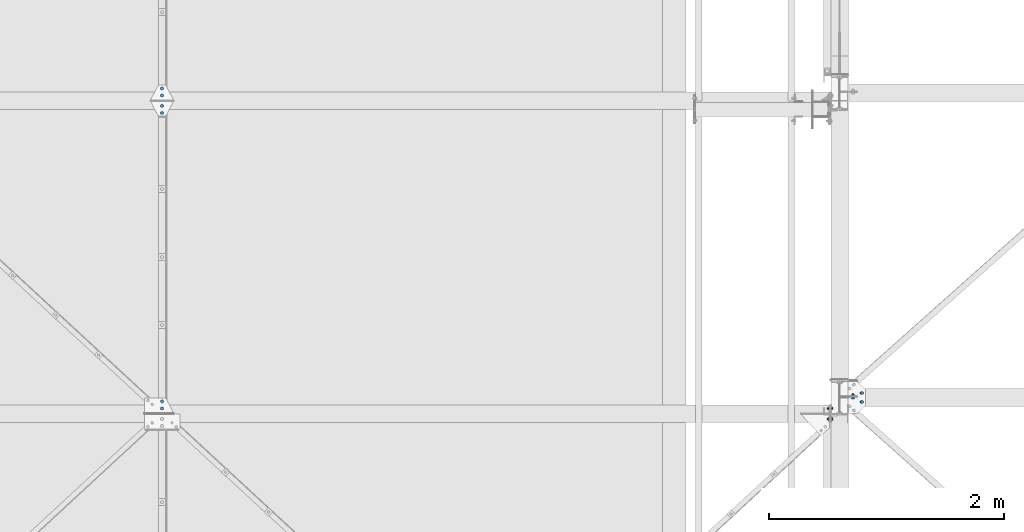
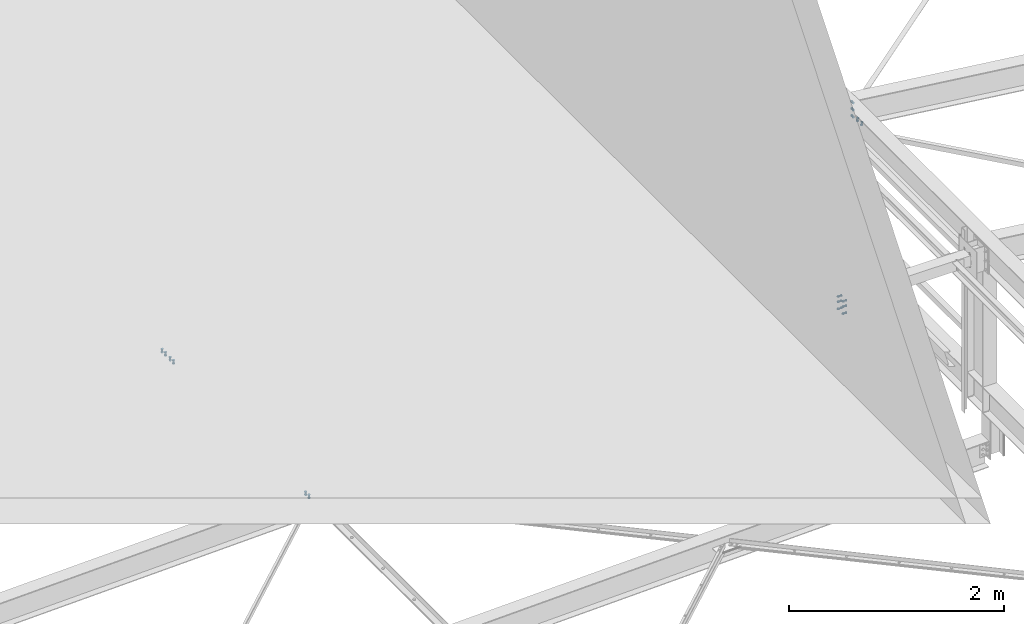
# One storey, part 197 of 3134: 6 mechanical fasteners, 3 elements without a shape of their own.
"""IFC2X3 building model written with IfcOpenShell, lengths in millimetres."""

from ifc_helpers import new_model, si_unit, frame, origin_with_axes, place, context, subcontext, project, spatial, faceted_brep, source, transform, mapped, material, type_object, element, aggregate, save


model = new_model("IFC2X3")

# Units and contexts
model_context = context("Model", 3, precision=1e-05, world=origin_with_axes())
body_context = subcontext(model_context, "Body", "Model", "MODEL_VIEW")
ifc_project = project(units=[si_unit("LENGTHUNIT", "METRE", prefix="MILLI"), si_unit("AREAUNIT", "SQUARE_METRE"), si_unit("VOLUMEUNIT", "CUBIC_METRE"), si_unit("MASSUNIT", "GRAM", prefix="KILO"), si_unit("TIMEUNIT", "SECOND"), si_unit("PLANEANGLEUNIT", "RADIAN"), si_unit("SOLIDANGLEUNIT", "STERADIAN"), si_unit("THERMODYNAMICTEMPERATUREUNIT", "DEGREE_CELSIUS"), si_unit("LUMINOUSINTENSITYUNIT", "LUMEN")], contexts=[model_context])

# Site, building, storey
site_placement = place(None, origin_with_axes())
site = spatial("IfcSite", under=ifc_project, at=site_placement, CompositionType="ELEMENT")
building_placement = place(site_placement, origin_with_axes())
building = spatial("IfcBuilding", under=site, at=building_placement, Name="Undefined", CompositionType="ELEMENT")
storey_placement = place(building_placement, origin_with_axes())
storey = spatial("IfcBuildingStorey", under=building, at=storey_placement, Name="Undefined", CompositionType="ELEMENT", Elevation=0.0)

# Assembly, mechanical fasteners
assembly_1_placement = place(storey_placement, origin_with_axes())
assembly_1 = element("IfcElementAssembly", 1, at=assembly_1_placement, inside=storey, Name="300", AssemblyPlace="NOTDEFINED", PredefinedType="RIGID_FRAME")
ifc_material = material(Name="8.8")
mechanical_fastener_type = type_object("IfcMechanicalFastenerType", Name="Bolt assembly")
shared_shape_1 = source(origin_with_axes(), body_context, "Body", "Brep", [
    faceted_brep([(13.856406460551, -19.199990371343, 0.0), (6.92820323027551, -19.199990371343, 12.0), (-6.92820323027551, -19.199990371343, 12.0), (-13.856406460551, -19.199990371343, 1.69692038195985e-15), (-6.92820323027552, -19.199990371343, -12.0), (6.9282032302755, -19.199990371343, -12.0), (6.9282032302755, -9.19999037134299, -12.0), (-6.92820323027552, -9.19999037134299, -12.0), (-13.856406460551, -9.19999037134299, 1.69692038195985e-15), (-6.92820323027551, -9.19999037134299, 12.0), (6.92820323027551, -9.19999037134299, 12.0), (13.856406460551, -9.19999037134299, 0.0), (8.0, -9.19999037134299, 0.0), (6.92820323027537, -9.19999037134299, 4.00000000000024), (3.99999999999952, -9.19999037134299, 6.92820323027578), (-8.29068785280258e-13, -9.19999037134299, 8.0), (-4.00000000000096, -9.19999037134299, 6.92820323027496), (-6.9282032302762, -9.19999037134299, 3.99999999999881), (-8.0, -9.19999037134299, -1.65813757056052e-12), (-6.92820323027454, -9.19999037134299, -4.00000000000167), (-3.99999999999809, -9.19999037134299, -6.92820323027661), (2.47832457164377e-12, -9.19999037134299, -8.0), (4.00000000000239, -9.19999037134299, -6.92820323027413), (6.92820323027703, -9.19999037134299, -3.99999999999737), (6.92820323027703, 25.800009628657, -3.99999999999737), (4.00000000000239, 25.800009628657, -6.92820323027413), (2.47832457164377e-12, 25.800009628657, -8.0), (-3.99999999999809, 25.800009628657, -6.92820323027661), (-6.92820323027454, 25.800009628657, -4.00000000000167), (-8.0, 25.800009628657, -1.65813757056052e-12), (-6.9282032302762, 25.800009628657, 3.99999999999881), (-4.00000000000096, 25.800009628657, 6.92820323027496), (-8.29068785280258e-13, 25.800009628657, 8.0), (3.99999999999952, 25.800009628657, 6.92820323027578), (6.92820323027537, 25.800009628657, 4.00000000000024), (8.0, 25.800009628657, 0.0), (13.856406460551, 8.00000637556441, 0.0), (6.92820323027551, 8.00000637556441, 12.0), (-6.92820323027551, 8.00000637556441, 12.0), (-13.856406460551, 8.00000637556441, 1.69692038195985e-15), (-6.92820323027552, 8.00000637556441, -12.0), (6.9282032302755, 8.00000637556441, -12.0), (6.9282032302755, 21.0000063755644, -12.0), (-6.92820323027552, 21.0000063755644, -12.0), (-13.856406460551, 21.0000063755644, 1.69692038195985e-15), (-6.92820323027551, 21.0000063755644, 12.0), (6.92820323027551, 21.0000063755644, 12.0), (13.856406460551, 21.0000063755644, 0.0)], [[[0, 1, 2, 3, 4, 5]], [[6, 7, 8, 9, 10, 11]], [[0, 11, 10, 1]], [[1, 10, 9, 2]], [[2, 9, 8, 3]], [[3, 8, 7, 4]], [[4, 7, 6, 5]], [[5, 6, 11, 0]], [[12, 13, 14, 15, 16, 17, 18, 19, 20, 21, 22, 23]], [[24, 25, 26, 27, 28, 29, 30, 31, 32, 33, 34, 35]], [[12, 35, 34, 13]], [[13, 34, 33, 14]], [[14, 33, 32, 15]], [[15, 32, 31, 16]], [[16, 31, 30, 17]], [[17, 30, 29, 18]], [[18, 29, 28, 19]], [[19, 28, 27, 20]], [[20, 27, 26, 21]], [[21, 26, 25, 22]], [[22, 25, 24, 23]], [[23, 24, 35, 12]], [[36, 37, 38, 39, 40, 41]], [[42, 43, 44, 45, 46, 47]], [[36, 47, 46, 37]], [[37, 46, 45, 38]], [[38, 45, 44, 39]], [[39, 44, 43, 40]], [[40, 43, 42, 41]], [[41, 42, 47, 36]]]),
    faceted_brep([(9.0, -0.1, 0.0), (7.79422863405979, -0.1, 4.50000000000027), (4.49999999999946, -0.1, 7.79422863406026), (-9.3270238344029e-13, -0.1, 9.0), (-4.50000000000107, -0.1, 7.79422863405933), (-7.79422863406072, -0.1, 4.49999999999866), (-9.0, -0.1, -1.86540476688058e-12), (-7.79422863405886, -0.1, -4.50000000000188), (-4.49999999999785, -0.1, -7.79422863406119), (2.78811514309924e-12, -0.1, -9.0), (4.50000000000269, -0.1, -7.7942286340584), (7.79422863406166, -0.1, -4.49999999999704), (7.79422863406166, 8.00000000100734, -4.49999999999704), (4.50000000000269, 8.00000000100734, -7.7942286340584), (2.78811514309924e-12, 8.00000000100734, -9.0), (-4.49999999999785, 8.00000000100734, -7.79422863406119), (-7.79422863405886, 8.00000000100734, -4.50000000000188), (-9.0, 8.00000000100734, -1.86540476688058e-12), (-7.79422863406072, 8.00000000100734, 4.49999999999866), (-4.50000000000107, 8.00000000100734, 7.79422863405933), (-9.3270238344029e-13, 8.00000000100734, 9.0), (4.49999999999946, 8.00000000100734, 7.79422863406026), (7.79422863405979, 8.00000000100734, 4.50000000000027), (9.0, 8.00000000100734, 0.0), (9.0, -9.09999037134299, 0.0), (7.79422863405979, -9.09999037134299, 4.50000000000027), (4.49999999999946, -9.09999037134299, 7.79422863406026), (-9.3270238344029e-13, -9.09999037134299, 9.0), (-4.50000000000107, -9.09999037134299, 7.79422863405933), (-7.79422863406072, -9.09999037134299, 4.49999999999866), (-9.0, -9.09999037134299, -1.86540476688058e-12), (-7.79422863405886, -9.09999037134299, -4.50000000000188), (-4.49999999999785, -9.09999037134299, -7.79422863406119), (2.78811514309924e-12, -9.09999037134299, -9.0), (4.50000000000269, -9.09999037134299, -7.7942286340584), (7.79422863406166, -9.09999037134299, -4.49999999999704), (7.79422863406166, 0.100000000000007, -4.49999999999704), (4.50000000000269, 0.100000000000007, -7.7942286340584), (2.78811514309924e-12, 0.100000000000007, -9.0), (-4.49999999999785, 0.100000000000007, -7.79422863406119), (-7.79422863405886, 0.100000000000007, -4.50000000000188), (-9.0, 0.100000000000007, -1.86540476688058e-12), (-7.79422863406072, 0.100000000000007, 4.49999999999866), (-4.50000000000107, 0.100000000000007, 7.79422863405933), (-9.3270238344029e-13, 0.100000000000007, 9.0), (4.49999999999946, 0.100000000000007, 7.79422863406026), (7.79422863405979, 0.100000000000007, 4.50000000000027), (9.0, 0.100000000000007, 0.0)], [[[0, 1, 2, 3, 4, 5, 6, 7, 8, 9, 10, 11]], [[12, 13, 14, 15, 16, 17, 18, 19, 20, 21, 22, 23]], [[0, 23, 22, 1]], [[1, 22, 21, 2]], [[2, 21, 20, 3]], [[3, 20, 19, 4]], [[4, 19, 18, 5]], [[5, 18, 17, 6]], [[6, 17, 16, 7]], [[7, 16, 15, 8]], [[8, 15, 14, 9]], [[9, 14, 13, 10]], [[10, 13, 12, 11]], [[11, 12, 23, 0]], [[24, 25, 26, 27, 28, 29, 30, 31, 32, 33, 34, 35]], [[36, 37, 38, 39, 40, 41, 42, 43, 44, 45, 46, 47]], [[24, 47, 46, 25]], [[25, 46, 45, 26]], [[26, 45, 44, 27]], [[27, 44, 43, 28]], [[28, 43, 42, 29]], [[29, 42, 41, 30]], [[30, 41, 40, 31]], [[31, 40, 39, 32]], [[32, 39, 38, 33]], [[33, 38, 37, 34]], [[34, 37, 36, 35]], [[35, 36, 47, 24]]]),
])
mechanical_fastener_1_placement = place(assembly_1_placement, frame((21039.2248161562, 35087.9995130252, 5496.68063428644), z_axis=(0.992623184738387, 1.63108538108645e-05, -0.12124031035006), x_axis=(1.62000016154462e-05, -0.999999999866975, -1.90000018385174e-06)))
mechanical_fastener_1 = element("IfcMechanicalFastener", 2, at=mechanical_fastener_1_placement, type_object=mechanical_fastener_type, material=ifc_material, Name="Bolt assembly", NominalDiameter=16.0, NominalLength=35.0, context=body_context, shape_type="MappedRepresentation", body=[
    mapped(shared_shape_1, transform((0.0, 0.0, 0.0))),
    mapped(shared_shape_1, transform((76.0, 0.0, 0.0))),
])
shared_shape_2 = source(origin_with_axes(), body_context, "Body", "Brep", [
    faceted_brep([(13.856406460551, -13.0499999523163, 0.0), (6.92820323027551, -13.0499999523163, 12.0), (-6.92820323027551, -13.0499999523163, 12.0), (-13.856406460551, -13.0499999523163, 1.69692038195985e-15), (-6.92820323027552, -13.0499999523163, -12.0), (6.9282032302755, -13.0499999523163, -12.0), (6.9282032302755, -3.04999995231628, -12.0), (-6.92820323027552, -3.04999995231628, -12.0), (-13.856406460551, -3.04999995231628, 1.69692038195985e-15), (-6.92820323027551, -3.04999995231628, 12.0), (6.92820323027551, -3.04999995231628, 12.0), (13.856406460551, -3.04999995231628, 0.0), (8.0, -3.04999995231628, 0.0), (6.92820323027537, -3.04999995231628, 4.00000000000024), (3.99999999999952, -3.04999995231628, 6.92820323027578), (-8.29068785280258e-13, -3.04999995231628, 8.0), (-4.00000000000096, -3.04999995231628, 6.92820323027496), (-6.9282032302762, -3.04999995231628, 3.99999999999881), (-8.0, -3.04999995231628, -1.65813757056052e-12), (-6.92820323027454, -3.04999995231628, -4.00000000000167), (-3.99999999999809, -3.04999995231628, -6.92820323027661), (2.47832457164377e-12, -3.04999995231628, -8.0), (4.00000000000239, -3.04999995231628, -6.92820323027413), (6.92820323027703, -3.04999995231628, -3.99999999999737), (6.92820323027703, 31.9500000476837, -3.99999999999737), (4.00000000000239, 31.9500000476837, -6.92820323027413), (2.47832457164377e-12, 31.9500000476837, -8.0), (-3.99999999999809, 31.9500000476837, -6.92820323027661), (-6.92820323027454, 31.9500000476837, -4.00000000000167), (-8.0, 31.9500000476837, -1.65813757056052e-12), (-6.9282032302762, 31.9500000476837, 3.99999999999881), (-4.00000000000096, 31.9500000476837, 6.92820323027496), (-8.29068785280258e-13, 31.9500000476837, 8.0), (3.99999999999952, 31.9500000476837, 6.92820323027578), (6.92820323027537, 31.9500000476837, 4.00000000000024), (8.0, 31.9500000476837, 0.0), (13.856406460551, 13.0500000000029, 0.0), (6.92820323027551, 13.0500000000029, 12.0), (-6.92820323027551, 13.0500000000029, 12.0), (-13.856406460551, 13.0500000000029, 1.69692038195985e-15), (-6.92820323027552, 13.0500000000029, -12.0), (6.9282032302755, 13.0500000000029, -12.0), (6.9282032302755, 26.0500000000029, -12.0), (-6.92820323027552, 26.0500000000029, -12.0), (-13.856406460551, 26.0500000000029, 1.69692038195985e-15), (-6.92820323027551, 26.0500000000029, 12.0), (6.92820323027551, 26.0500000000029, 12.0), (13.856406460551, 26.0500000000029, 0.0)], [[[0, 1, 2, 3, 4, 5]], [[6, 7, 8, 9, 10, 11]], [[0, 11, 10, 1]], [[1, 10, 9, 2]], [[2, 9, 8, 3]], [[3, 8, 7, 4]], [[4, 7, 6, 5]], [[5, 6, 11, 0]], [[12, 13, 14, 15, 16, 17, 18, 19, 20, 21, 22, 23]], [[24, 25, 26, 27, 28, 29, 30, 31, 32, 33, 34, 35]], [[12, 35, 34, 13]], [[13, 34, 33, 14]], [[14, 33, 32, 15]], [[15, 32, 31, 16]], [[16, 31, 30, 17]], [[17, 30, 29, 18]], [[18, 29, 28, 19]], [[19, 28, 27, 20]], [[20, 27, 26, 21]], [[21, 26, 25, 22]], [[22, 25, 24, 23]], [[23, 24, 35, 12]], [[36, 37, 38, 39, 40, 41]], [[42, 43, 44, 45, 46, 47]], [[36, 47, 46, 37]], [[37, 46, 45, 38]], [[38, 45, 44, 39]], [[39, 44, 43, 40]], [[40, 43, 42, 41]], [[41, 42, 47, 36]]]),
    faceted_brep([(9.0, 2.95000000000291, 0.0), (7.79422863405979, 2.95000000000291, 4.50000000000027), (4.49999999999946, 2.95000000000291, 7.79422863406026), (-9.3270238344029e-13, 2.95000000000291, 9.0), (-4.50000000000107, 2.95000000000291, 7.79422863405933), (-7.79422863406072, 2.95000000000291, 4.49999999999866), (-9.0, 2.95000000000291, -1.86540476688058e-12), (-7.79422863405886, 2.95000000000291, -4.50000000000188), (-4.49999999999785, 2.95000000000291, -7.79422863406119), (2.78811514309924e-12, 2.95000000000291, -9.0), (4.50000000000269, 2.95000000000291, -7.7942286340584), (7.79422863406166, 2.95000000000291, -4.49999999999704), (7.79422863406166, 13.0500000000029, -4.49999999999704), (4.50000000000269, 13.0500000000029, -7.7942286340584), (2.78811514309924e-12, 13.0500000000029, -9.0), (-4.49999999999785, 13.0500000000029, -7.79422863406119), (-7.79422863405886, 13.0500000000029, -4.50000000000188), (-9.0, 13.0500000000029, -1.86540476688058e-12), (-7.79422863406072, 13.0500000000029, 4.49999999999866), (-4.50000000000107, 13.0500000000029, 7.79422863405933), (-9.3270238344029e-13, 13.0500000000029, 9.0), (4.49999999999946, 13.0500000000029, 7.79422863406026), (7.79422863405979, 13.0500000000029, 4.50000000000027), (9.0, 13.0500000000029, 0.0), (9.0, -2.94999995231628, 0.0), (7.79422863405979, -2.94999995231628, 4.50000000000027), (4.49999999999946, -2.94999995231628, 7.79422863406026), (-9.3270238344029e-13, -2.94999995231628, 9.0), (-4.50000000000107, -2.94999995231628, 7.79422863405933), (-7.79422863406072, -2.94999995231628, 4.49999999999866), (-9.0, -2.94999995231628, -1.86540476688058e-12), (-7.79422863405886, -2.94999995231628, -4.50000000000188), (-4.49999999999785, -2.94999995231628, -7.79422863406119), (2.78811514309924e-12, -2.94999995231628, -9.0), (4.50000000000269, -2.94999995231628, -7.7942286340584), (7.79422863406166, -2.94999995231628, -4.49999999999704), (7.79422863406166, 3.14999995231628, -4.49999999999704), (4.50000000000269, 3.14999995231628, -7.7942286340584), (2.78811514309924e-12, 3.14999995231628, -9.0), (-4.49999999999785, 3.14999995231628, -7.79422863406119), (-7.79422863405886, 3.14999995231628, -4.50000000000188), (-9.0, 3.14999995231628, -1.86540476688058e-12), (-7.79422863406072, 3.14999995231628, 4.49999999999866), (-4.50000000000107, 3.14999995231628, 7.79422863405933), (-9.3270238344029e-13, 3.14999995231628, 9.0), (4.49999999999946, 3.14999995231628, 7.79422863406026), (7.79422863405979, 3.14999995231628, 4.50000000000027), (9.0, 3.14999995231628, 0.0)], [[[0, 1, 2, 3, 4, 5, 6, 7, 8, 9, 10, 11]], [[12, 13, 14, 15, 16, 17, 18, 19, 20, 21, 22, 23]], [[0, 23, 22, 1]], [[1, 22, 21, 2]], [[2, 21, 20, 3]], [[3, 20, 19, 4]], [[4, 19, 18, 5]], [[5, 18, 17, 6]], [[6, 17, 16, 7]], [[7, 16, 15, 8]], [[8, 15, 14, 9]], [[9, 14, 13, 10]], [[10, 13, 12, 11]], [[11, 12, 23, 0]], [[24, 25, 26, 27, 28, 29, 30, 31, 32, 33, 34, 35]], [[36, 37, 38, 39, 40, 41, 42, 43, 44, 45, 46, 47]], [[24, 47, 46, 25]], [[25, 46, 45, 26]], [[26, 45, 44, 27]], [[27, 44, 43, 28]], [[28, 43, 42, 29]], [[29, 42, 41, 30]], [[30, 41, 40, 31]], [[31, 40, 39, 32]], [[32, 39, 38, 33]], [[33, 38, 37, 34]], [[34, 37, 36, 35]], [[35, 36, 47, 24]]]),
])
mechanical_fastener_2_placement = place(assembly_1_placement, frame((20965.0, 35050.0, 5735.35014950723), z_axis=(1.0, 0.0, 0.0), x_axis=(0.0, 0.0, -1.0)))
mechanical_fastener_2 = element("IfcMechanicalFastener", 3, at=mechanical_fastener_2_placement, type_object=mechanical_fastener_type, material=ifc_material, Name="Bolt assembly", NominalDiameter=16.0, NominalLength=35.0, context=body_context, shape_type="MappedRepresentation", body=[
    mapped(shared_shape_2, transform((0.0, 0.0, 0.0))),
    mapped(shared_shape_2, transform((80.0, 0.0, 0.0))),
    mapped(shared_shape_2, transform((160.0, 0.0, 0.0))),
])
aggregate(assembly_1, [mechanical_fastener_1, mechanical_fastener_2])

# Assembly, mechanical fastener
assembly_2_placement = place(storey_placement, origin_with_axes())
assembly_2 = element("IfcElementAssembly", 4, at=assembly_2_placement, inside=storey, Name="300", AssemblyPlace="NOTDEFINED", PredefinedType="RIGID_FRAME")
shared_shape_3 = source(origin_with_axes(), body_context, "Body", "Brep", [
    faceted_brep([(13.856406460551, -21.0000017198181, 0.0), (6.92820323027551, -21.0000017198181, 12.0), (-6.92820323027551, -21.0000017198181, 12.0), (-13.856406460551, -21.0000017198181, 1.69692038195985e-15), (-6.92820323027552, -21.0000017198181, -12.0), (6.9282032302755, -21.0000017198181, -12.0), (6.9282032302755, -11.0000017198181, -12.0), (-6.92820323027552, -11.0000017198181, -12.0), (-13.856406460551, -11.0000017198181, 1.69692038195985e-15), (-6.92820323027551, -11.0000017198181, 12.0), (6.92820323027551, -11.0000017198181, 12.0), (13.856406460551, -11.0000017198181, 0.0), (8.0, -11.0000017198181, 0.0), (6.92820323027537, -11.0000017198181, 4.00000000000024), (3.99999999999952, -11.0000017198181, 6.92820323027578), (-8.29068785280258e-13, -11.0000017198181, 8.0), (-4.00000000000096, -11.0000017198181, 6.92820323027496), (-6.9282032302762, -11.0000017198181, 3.99999999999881), (-8.0, -11.0000017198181, -1.65813757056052e-12), (-6.92820323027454, -11.0000017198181, -4.00000000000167), (-3.99999999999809, -11.0000017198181, -6.92820323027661), (2.47832457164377e-12, -11.0000017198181, -8.0), (4.00000000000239, -11.0000017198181, -6.92820323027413), (6.92820323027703, -11.0000017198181, -3.99999999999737), (6.92820323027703, 29.0, -3.99999999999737), (4.00000000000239, 29.0, -6.92820323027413), (2.47832457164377e-12, 29.0, -8.0), (-3.99999999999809, 29.0, -6.92820323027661), (-6.92820323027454, 29.0, -4.00000000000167), (-8.0, 29.0, -1.65813757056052e-12), (-6.9282032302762, 29.0, 3.99999999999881), (-4.00000000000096, 29.0, 6.92820323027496), (-8.29068785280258e-13, 29.0, 8.0), (3.99999999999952, 29.0, 6.92820323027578), (6.92820323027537, 29.0, 4.00000000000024), (8.0, 29.0, 0.0), (13.856406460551, 10.9999982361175, 0.0), (6.92820323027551, 10.9999982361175, 12.0), (-6.92820323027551, 10.9999982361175, 12.0), (-13.856406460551, 10.9999982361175, 1.69692038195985e-15), (-6.92820323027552, 10.9999982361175, -12.0), (6.9282032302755, 10.9999982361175, -12.0), (6.9282032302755, 23.9999999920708, -12.0), (-6.92820323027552, 23.9999999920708, -12.0), (-13.856406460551, 23.9999999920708, 1.69692038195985e-15), (-6.92820323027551, 23.9999999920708, 12.0), (6.92820323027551, 23.9999999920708, 12.0), (13.856406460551, 23.9999999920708, 0.0)], [[[0, 1, 2, 3, 4, 5]], [[6, 7, 8, 9, 10, 11]], [[0, 11, 10, 1]], [[1, 10, 9, 2]], [[2, 9, 8, 3]], [[3, 8, 7, 4]], [[4, 7, 6, 5]], [[5, 6, 11, 0]], [[12, 13, 14, 15, 16, 17, 18, 19, 20, 21, 22, 23]], [[24, 25, 26, 27, 28, 29, 30, 31, 32, 33, 34, 35]], [[12, 35, 34, 13]], [[13, 34, 33, 14]], [[14, 33, 32, 15]], [[15, 32, 31, 16]], [[16, 31, 30, 17]], [[17, 30, 29, 18]], [[18, 29, 28, 19]], [[19, 28, 27, 20]], [[20, 27, 26, 21]], [[21, 26, 25, 22]], [[22, 25, 24, 23]], [[23, 24, 35, 12]], [[36, 37, 38, 39, 40, 41]], [[42, 43, 44, 45, 46, 47]], [[36, 47, 46, 37]], [[37, 46, 45, 38]], [[38, 45, 44, 39]], [[39, 44, 43, 40]], [[40, 43, 42, 41]], [[41, 42, 47, 36]]]),
    faceted_brep([(9.0, -10.9000017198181, 0.0), (7.79422863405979, -10.9000017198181, 4.50000000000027), (4.49999999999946, -10.9000017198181, 7.79422863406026), (-9.3270238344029e-13, -10.9000017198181, 9.0), (-4.50000000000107, -10.9000017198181, 7.79422863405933), (-7.79422863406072, -10.9000017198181, 4.49999999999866), (-9.0, -10.9000017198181, -1.86540476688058e-12), (-7.79422863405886, -10.9000017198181, -4.50000000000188), (-4.49999999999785, -10.9000017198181, -7.79422863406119), (2.78811514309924e-12, -10.9000017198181, -9.0), (4.50000000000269, -10.9000017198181, -7.7942286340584), (7.79422863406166, -10.9000017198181, -4.49999999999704), (7.79422863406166, -3.9, -4.49999999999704), (4.50000000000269, -3.9, -7.7942286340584), (2.78811514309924e-12, -3.9, -9.0), (-4.49999999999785, -3.9, -7.79422863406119), (-7.79422863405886, -3.9, -4.50000000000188), (-9.0, -3.9, -1.86540476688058e-12), (-7.79422863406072, -3.9, 4.49999999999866), (-4.50000000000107, -3.9, 7.79422863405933), (-9.3270238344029e-13, -3.9, 9.0), (4.49999999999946, -3.9, 7.79422863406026), (7.79422863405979, -3.9, 4.50000000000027), (9.0, -3.9, 0.0), (9.0, -3.99999624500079, 0.0), (7.79422863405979, -3.99999624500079, 4.50000000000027), (4.49999999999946, -3.99999624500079, 7.79422863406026), (-9.3270238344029e-13, -3.99999624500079, 9.0), (-4.50000000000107, -3.99999624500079, 7.79422863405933), (-7.79422863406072, -3.99999624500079, 4.49999999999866), (-9.0, -3.99999624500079, -1.86540476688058e-12), (-7.79422863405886, -3.99999624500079, -4.50000000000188), (-4.49999999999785, -3.99999624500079, -7.79422863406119), (2.78811514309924e-12, -3.99999624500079, -9.0), (4.50000000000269, -3.99999624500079, -7.7942286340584), (7.79422863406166, -3.99999624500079, -4.49999999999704), (7.79422863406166, 4.00000375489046, -4.49999999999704), (4.50000000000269, 4.00000375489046, -7.7942286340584), (2.78811514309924e-12, 4.00000375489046, -9.0), (-4.49999999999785, 4.00000375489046, -7.79422863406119), (-7.79422863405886, 4.00000375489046, -4.50000000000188), (-9.0, 4.00000375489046, -1.86540476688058e-12), (-7.79422863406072, 4.00000375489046, 4.49999999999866), (-4.50000000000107, 4.00000375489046, 7.79422863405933), (-9.3270238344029e-13, 4.00000375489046, 9.0), (4.49999999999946, 4.00000375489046, 7.79422863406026), (7.79422863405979, 4.00000375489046, 4.50000000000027), (9.0, 4.00000375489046, 0.0), (9.0, 3.9, 0.0), (7.79422863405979, 3.9, 4.50000000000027), (4.49999999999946, 3.9, 7.79422863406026), (-9.3270238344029e-13, 3.9, 9.0), (-4.50000000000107, 3.9, 7.79422863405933), (-7.79422863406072, 3.9, 4.49999999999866), (-9.0, 3.9, -1.86540476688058e-12), (-7.79422863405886, 3.9, -4.50000000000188), (-4.49999999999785, 3.9, -7.79422863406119), (2.78811514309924e-12, 3.9, -9.0), (4.50000000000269, 3.9, -7.7942286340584), (7.79422863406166, 3.9, -4.49999999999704), (7.79422863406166, 10.9999982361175, -4.49999999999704), (4.50000000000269, 10.9999982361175, -7.7942286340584), (2.78811514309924e-12, 10.9999982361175, -9.0), (-4.49999999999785, 10.9999982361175, -7.79422863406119), (-7.79422863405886, 10.9999982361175, -4.50000000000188), (-9.0, 10.9999982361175, -1.86540476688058e-12), (-7.79422863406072, 10.9999982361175, 4.49999999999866), (-4.50000000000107, 10.9999982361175, 7.79422863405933), (-9.3270238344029e-13, 10.9999982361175, 9.0), (4.49999999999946, 10.9999982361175, 7.79422863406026), (7.79422863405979, 10.9999982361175, 4.50000000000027), (9.0, 10.9999982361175, 0.0)], [[[0, 1, 2, 3, 4, 5, 6, 7, 8, 9, 10, 11]], [[12, 13, 14, 15, 16, 17, 18, 19, 20, 21, 22, 23]], [[0, 23, 22, 1]], [[1, 22, 21, 2]], [[2, 21, 20, 3]], [[3, 20, 19, 4]], [[4, 19, 18, 5]], [[5, 18, 17, 6]], [[6, 17, 16, 7]], [[7, 16, 15, 8]], [[8, 15, 14, 9]], [[9, 14, 13, 10]], [[10, 13, 12, 11]], [[11, 12, 23, 0]], [[24, 25, 26, 27, 28, 29, 30, 31, 32, 33, 34, 35]], [[36, 37, 38, 39, 40, 41, 42, 43, 44, 45, 46, 47]], [[24, 47, 46, 25]], [[25, 46, 45, 26]], [[26, 45, 44, 27]], [[27, 44, 43, 28]], [[28, 43, 42, 29]], [[29, 42, 41, 30]], [[30, 41, 40, 31]], [[31, 40, 39, 32]], [[32, 39, 38, 33]], [[33, 38, 37, 34]], [[34, 37, 36, 35]], [[35, 36, 47, 24]], [[48, 49, 50, 51, 52, 53, 54, 55, 56, 57, 58, 59]], [[60, 61, 62, 63, 64, 65, 66, 67, 68, 69, 70, 71]], [[48, 71, 70, 49]], [[49, 70, 69, 50]], [[50, 69, 68, 51]], [[51, 68, 67, 52]], [[52, 67, 66, 53]], [[53, 66, 65, 54]], [[54, 65, 64, 55]], [[55, 64, 63, 56]], [[56, 63, 62, 57]], [[57, 62, 61, 58]], [[58, 61, 60, 59]], [[59, 60, 71, 48]]]),
])
mechanical_fastener_3_placement = place(assembly_2_placement, frame((15072.5010771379, 37626.25, 3386.35293761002), z_axis=(-0.999519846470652, 0.0, -0.0309851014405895), x_axis=(0.0, 1.0, 0.0)))
mechanical_fastener_3 = element("IfcMechanicalFastener", 5, at=mechanical_fastener_3_placement, type_object=mechanical_fastener_type, material=ifc_material, Name="Bolt assembly", NominalDiameter=16.0, NominalLength=40.0, context=body_context, shape_type="MappedRepresentation", body=[
    mapped(shared_shape_3, transform((0.0, 0.0, 0.0))),
    mapped(shared_shape_3, transform((59.9999999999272, 0.0, 5.40239852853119e-10))),
])

assembly_3_placement = place(storey_placement, origin_with_axes())
assembly_3 = element("IfcElementAssembly", 6, at=assembly_3_placement, inside=storey, Name="300", AssemblyPlace="NOTDEFINED", PredefinedType="RIGID_FRAME")
mechanical_fastener_4_placement = place(assembly_3_placement, frame((15072.5010771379, 34957.5, 3386.35293761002), z_axis=(-0.999519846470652, 0.0, -0.0309851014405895), x_axis=(0.0, 1.0, 0.0)))
mechanical_fastener_4 = element("IfcMechanicalFastener", 7, at=mechanical_fastener_4_placement, type_object=mechanical_fastener_type, material=ifc_material, Name="Bolt assembly", NominalDiameter=16.0, NominalLength=40.0, context=body_context, shape_type="MappedRepresentation", body=[
    mapped(shared_shape_3, transform((0.0, 0.0, 0.0))),
    mapped(shared_shape_3, transform((59.9999999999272, 0.0, 5.40239852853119e-10))),
])

# Mechanical fastener
mechanical_fastener_5_placement = place(assembly_2_placement, frame((15072.5010771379, 37536.25, 3386.35293761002), z_axis=(0.999519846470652, 0.0, 0.0309851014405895), x_axis=(0.0, -1.0, 0.0)))
mechanical_fastener_5 = element("IfcMechanicalFastener", 8, at=mechanical_fastener_5_placement, type_object=mechanical_fastener_type, material=ifc_material, Name="Bolt assembly", NominalDiameter=16.0, NominalLength=40.0, context=body_context, shape_type="MappedRepresentation", body=[
    mapped(shared_shape_3, transform((0.0, 0.0, 0.0))),
    mapped(shared_shape_3, transform((59.9999999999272, 0.0, 5.40239852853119e-10))),
])

aggregate(assembly_2, [mechanical_fastener_3, mechanical_fastener_5])

shared_shape_4 = source(origin_with_axes(), body_context, "Body", "Brep", [
    faceted_brep([(13.856406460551, -28.9999999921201, 0.0), (6.92820323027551, -28.9999999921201, 12.0), (-6.92820323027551, -28.9999999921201, 12.0), (-13.856406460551, -28.9999999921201, 1.69692038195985e-15), (-6.92820323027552, -28.9999999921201, -12.0), (6.9282032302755, -28.9999999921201, -12.0), (6.9282032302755, -19.0, -12.0), (-6.92820323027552, -19.0, -12.0), (-13.856406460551, -19.0, 1.69692038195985e-15), (-6.92820323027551, -19.0, 12.0), (6.92820323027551, -19.0, 12.0), (13.856406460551, -19.0, 0.0), (8.0, -18.9999999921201, 0.0), (6.92820323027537, -18.9999999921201, 4.00000000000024), (3.99999999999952, -18.9999999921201, 6.92820323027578), (-8.29068785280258e-13, -18.9999999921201, 8.0), (-4.00000000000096, -18.9999999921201, 6.92820323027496), (-6.9282032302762, -18.9999999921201, 3.99999999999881), (-8.0, -18.9999999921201, -1.65813757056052e-12), (-6.92820323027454, -18.9999999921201, -4.00000000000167), (-3.99999999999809, -18.9999999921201, -6.92820323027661), (2.47832457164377e-12, -18.9999999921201, -8.0), (4.00000000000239, -18.9999999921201, -6.92820323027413), (6.92820323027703, -18.9999999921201, -3.99999999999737), (6.92820323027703, 21.0000000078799, -3.99999999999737), (4.00000000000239, 21.0000000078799, -6.92820323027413), (2.47832457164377e-12, 21.0000000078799, -8.0), (-3.99999999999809, 21.0000000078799, -6.92820323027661), (-6.92820323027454, 21.0000000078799, -4.00000000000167), (-8.0, 21.0000000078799, -1.65813757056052e-12), (-6.9282032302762, 21.0000000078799, 3.99999999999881), (-4.00000000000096, 21.0000000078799, 6.92820323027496), (-8.29068785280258e-13, 21.0000000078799, 8.0), (3.99999999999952, 21.0000000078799, 6.92820323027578), (6.92820323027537, 21.0000000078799, 4.00000000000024), (8.0, 21.0000000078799, 0.0), (13.856406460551, 0.0, 0.0), (6.92820323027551, 0.0, 12.0), (-6.92820323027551, 0.0, 12.0), (-13.856406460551, 0.0, 1.69692038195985e-15), (-6.92820323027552, 0.0, -12.0), (6.9282032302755, 0.0, -12.0), (6.9282032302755, 12.9999996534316, -12.0), (-6.92820323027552, 12.9999996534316, -12.0), (-13.856406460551, 12.9999996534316, 1.69692038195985e-15), (-6.92820323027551, 12.9999996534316, 12.0), (6.92820323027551, 12.9999996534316, 12.0), (13.856406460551, 12.9999996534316, 0.0)], [[[0, 1, 2, 3, 4, 5]], [[6, 7, 8, 9, 10, 11]], [[0, 11, 10, 1]], [[1, 10, 9, 2]], [[2, 9, 8, 3]], [[3, 8, 7, 4]], [[4, 7, 6, 5]], [[5, 6, 11, 0]], [[12, 13, 14, 15, 16, 17, 18, 19, 20, 21, 22, 23]], [[24, 25, 26, 27, 28, 29, 30, 31, 32, 33, 34, 35]], [[12, 35, 34, 13]], [[13, 34, 33, 14]], [[14, 33, 32, 15]], [[15, 32, 31, 16]], [[16, 31, 30, 17]], [[17, 30, 29, 18]], [[18, 29, 28, 19]], [[19, 28, 27, 20]], [[20, 27, 26, 21]], [[21, 26, 25, 22]], [[22, 25, 24, 23]], [[23, 24, 35, 12]], [[36, 37, 38, 39, 40, 41]], [[42, 43, 44, 45, 46, 47]], [[36, 47, 46, 37]], [[37, 46, 45, 38]], [[38, 45, 44, 39]], [[39, 44, 43, 40]], [[40, 43, 42, 41]], [[41, 42, 47, 36]]]),
    faceted_brep([(9.0, -18.8999999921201, 0.0), (7.79422863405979, -18.8999999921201, 4.50000000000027), (4.49999999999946, -18.8999999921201, 7.79422863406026), (-9.3270238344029e-13, -18.8999999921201, 9.0), (-4.50000000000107, -18.8999999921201, 7.79422863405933), (-7.79422863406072, -18.8999999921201, 4.49999999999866), (-9.0, -18.8999999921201, -1.86540476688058e-12), (-7.79422863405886, -18.8999999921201, -4.50000000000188), (-4.49999999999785, -18.8999999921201, -7.79422863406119), (2.78811514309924e-12, -18.8999999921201, -9.0), (4.50000000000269, -18.8999999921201, -7.7942286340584), (7.79422863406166, -18.8999999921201, -4.49999999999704), (7.79422863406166, -9.89999997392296, -4.49999999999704), (4.50000000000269, -9.89999997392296, -7.7942286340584), (2.78811514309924e-12, -9.89999997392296, -9.0), (-4.49999999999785, -9.89999997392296, -7.79422863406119), (-7.79422863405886, -9.89999997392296, -4.50000000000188), (-9.0, -9.89999997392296, -1.86540476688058e-12), (-7.79422863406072, -9.89999997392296, 4.49999999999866), (-4.50000000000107, -9.89999997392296, 7.79422863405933), (-9.3270238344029e-13, -9.89999997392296, 9.0), (4.49999999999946, -9.89999997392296, 7.79422863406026), (7.79422863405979, -9.89999997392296, 4.50000000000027), (9.0, -9.89999997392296, 0.0), (9.0, -10.1000003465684, 0.0), (7.79422863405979, -10.1000003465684, 4.50000000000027), (4.49999999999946, -10.1000003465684, 7.79422863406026), (-9.3270238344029e-13, -10.1000003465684, 9.0), (-4.50000000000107, -10.1000003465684, 7.79422863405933), (-7.79422863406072, -10.1000003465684, 4.49999999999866), (-9.0, -10.1000003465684, -1.86540476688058e-12), (-7.79422863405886, -10.1000003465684, -4.50000000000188), (-4.49999999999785, -10.1000003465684, -7.79422863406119), (2.78811514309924e-12, -10.1000003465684, -9.0), (4.50000000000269, -10.1000003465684, -7.7942286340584), (7.79422863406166, -10.1000003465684, -4.49999999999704), (7.79422863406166, -3.46568413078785e-07, -4.49999999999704), (4.50000000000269, -3.46568413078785e-07, -7.7942286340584), (2.78811514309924e-12, -3.46568413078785e-07, -9.0), (-4.49999999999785, -3.46568413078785e-07, -7.79422863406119), (-7.79422863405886, -3.46568413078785e-07, -4.50000000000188), (-9.0, -3.46568413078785e-07, -1.86540476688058e-12), (-7.79422863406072, -3.46568413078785e-07, 4.49999999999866), (-4.50000000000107, -3.46568413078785e-07, 7.79422863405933), (-9.3270238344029e-13, -3.46568413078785e-07, 9.0), (4.49999999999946, -3.46568413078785e-07, 7.79422863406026), (7.79422863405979, -3.46568413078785e-07, 4.50000000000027), (9.0, -3.46568413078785e-07, 0.0)], [[[0, 1, 2, 3, 4, 5, 6, 7, 8, 9, 10, 11]], [[12, 13, 14, 15, 16, 17, 18, 19, 20, 21, 22, 23]], [[0, 23, 22, 1]], [[1, 22, 21, 2]], [[2, 21, 20, 3]], [[3, 20, 19, 4]], [[4, 19, 18, 5]], [[5, 18, 17, 6]], [[6, 17, 16, 7]], [[7, 16, 15, 8]], [[8, 15, 14, 9]], [[9, 14, 13, 10]], [[10, 13, 12, 11]], [[11, 12, 23, 0]], [[24, 25, 26, 27, 28, 29, 30, 31, 32, 33, 34, 35]], [[36, 37, 38, 39, 40, 41, 42, 43, 44, 45, 46, 47]], [[24, 47, 46, 25]], [[25, 46, 45, 26]], [[26, 45, 44, 27]], [[27, 44, 43, 28]], [[28, 43, 42, 29]], [[29, 42, 41, 30]], [[30, 41, 40, 31]], [[31, 40, 39, 32]], [[32, 39, 38, 33]], [[33, 38, 37, 34]], [[34, 37, 36, 35]], [[35, 36, 47, 24]]]),
])
mechanical_fastener_6_placement = place(assembly_3_placement, frame((20764.0000000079, 34912.5, 3663.33404423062), z_axis=(0.0, 1.0, 0.0), x_axis=(0.0, 0.0, -1.0)))
mechanical_fastener_6 = element("IfcMechanicalFastener", 9, at=mechanical_fastener_6_placement, type_object=mechanical_fastener_type, material=ifc_material, Name="Bolt assembly", NominalDiameter=16.0, NominalLength=40.0, context=body_context, shape_type="MappedRepresentation", body=[
    mapped(shared_shape_4, transform((0.0, 0.0, -45.0))),
    mapped(shared_shape_4, transform((60.0, 0.0, -45.0))),
    mapped(shared_shape_4, transform((140.0, 0.0, -45.0))),
    mapped(shared_shape_4, transform((0.0, 0.0, 45.0))),
    mapped(shared_shape_4, transform((60.0, 0.0, 45.0))),
    mapped(shared_shape_4, transform((140.0, 0.0, 45.0))),
])

aggregate(assembly_3, [mechanical_fastener_4, mechanical_fastener_6])

save(model, "model.ifc")
